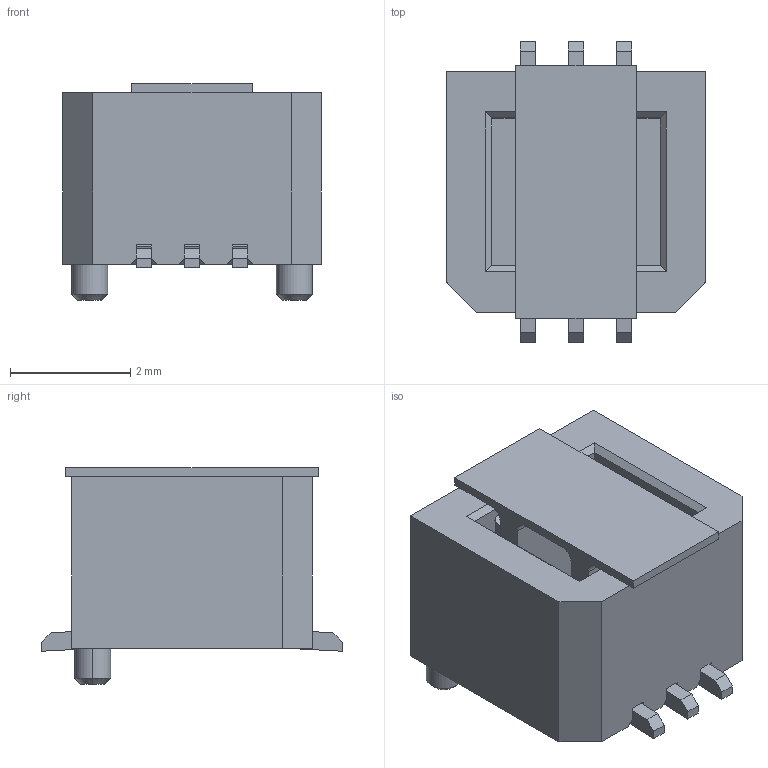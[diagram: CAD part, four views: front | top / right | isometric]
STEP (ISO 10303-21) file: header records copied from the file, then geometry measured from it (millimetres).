
FILE_DESCRIPTION(('CATIA V5 STEP Exchange'),'2;1');
FILE_NAME('F:\黄富鸿\板对板\PBB08B\母座\H2.90\带盖\HC-PBB08B-1-06-F-H2.9-XX-R-P-06 (BTB0.8 单槽 B型母座 立贴 带柱 编带+盖)-HCTL.stp','2026-01-26T06:25:36+00:00',('none'),('none'),'CATIA Version 5 Release 20 GA (IN-10)','CATIA V5 STEP AP203','none');
FILE_SCHEMA(('CONFIG_CONTROL_DESIGN'));
Length unit declared in the file: millimetre
Products named in the file (1): Part1
Bounding box: 4.3 x 5 x 3.6 mm (x, y, z)
Volume: 40 mm3; surface area: 189.7 mm2
Topology: 8 solids, 8 shells, 317 faces, 928 edges, 612 vertices
Faces by surface type: plane 197, cylinder 116, cone 4
Entity records: 9919 total; most frequent: ORIENTED_EDGE 1856, CARTESIAN_POINT 1779, DIRECTION 1392, EDGE_CURVE 928, VECTOR 688, LINE 688, VERTEX_POINT 612, AXIS2_PLACEMENT_3D 471
